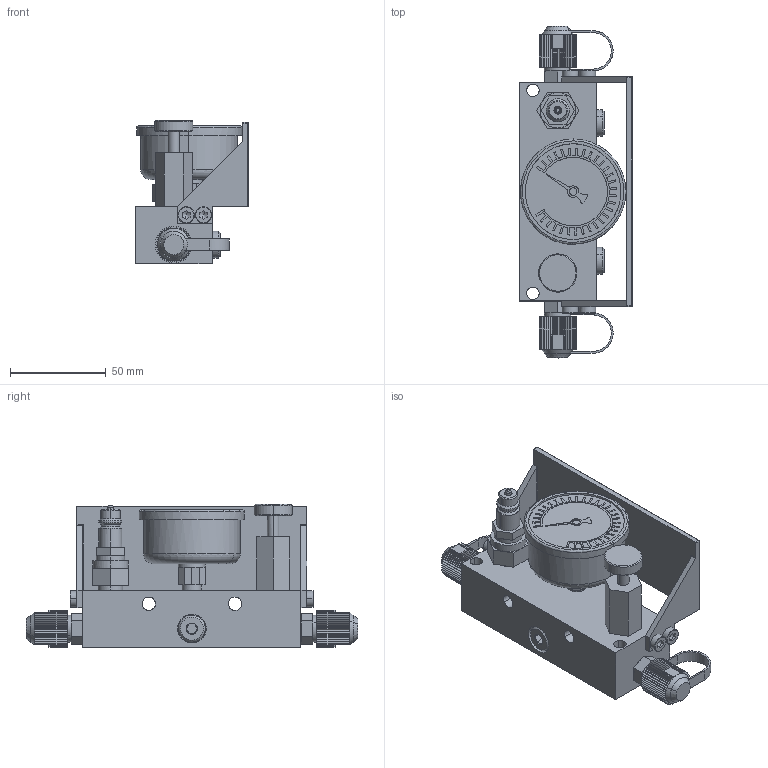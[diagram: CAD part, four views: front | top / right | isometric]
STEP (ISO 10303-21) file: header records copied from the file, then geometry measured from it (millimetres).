
FILE_DESCRIPTION(('CATIA V5 STEP Exchange'),'2;1');
FILE_NAME('W:\LIBRERIA TECAPRES®\FICHEROS CAD\PANEL DE CONTROL\P120.stp','2016-02-03T05:01:27+00:00',('none'),('none'),'CATIA Version 5 Release 17 (IN-10)','CATIA V5 STEP AP203','none');
FILE_SCHEMA(('CONFIG_CONTROL_DESIGN'));
Length unit declared in the file: millimetre
Products named in the file (1): P120
Bounding box: 59 x 173.37 x 75 mm (x, y, z)
Volume: 227968.2 mm3; surface area: 70192.6 mm2
Topology: 1 solids, 53 shells, 1213 faces, 3205 edges, 2053 vertices
Faces by surface type: plane 532, cylinder 341, cone 258, torus 78, sphere 4
Entity records: 40863 total; most frequent: CARTESIAN_POINT 13212, ORIENTED_EDGE 6370, DIRECTION 4454, EDGE_CURVE 3185, VERTEX_POINT 2053, VECTOR 1842, LINE 1842, AXIS2_PLACEMENT_3D 1697
